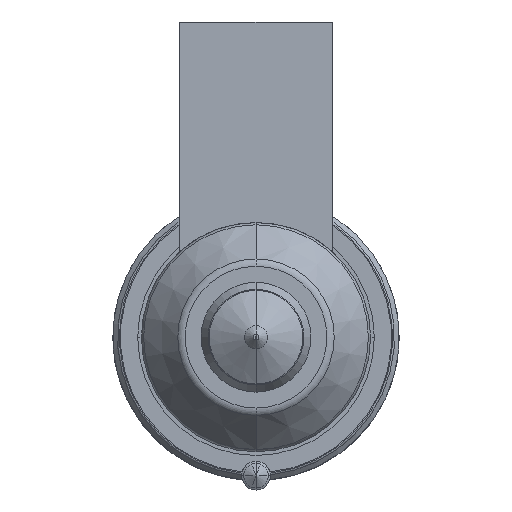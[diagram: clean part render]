
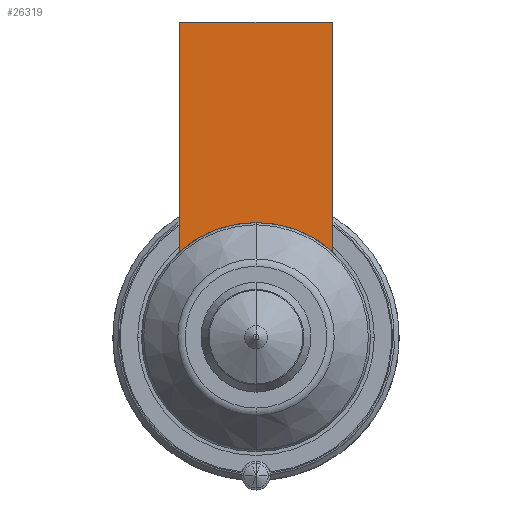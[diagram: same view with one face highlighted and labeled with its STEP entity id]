
A CAD part, front view. The second image highlights one B-rep face of the part: STEP entity #26319.
In plain terms, the highlighted planar face has unit normal (0, -1, 0).
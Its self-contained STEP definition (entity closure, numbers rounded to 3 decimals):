
#25496=DIRECTION('',(0.,0.,-1.));
#25497=VECTOR('',#25496,24.056);
#25498=CARTESIAN_POINT('',(-8.,-56.,33.));
#25499=LINE('',#25498,#25497);
#25511=CARTESIAN_POINT('',(0.,-56.,0.));
#25512=DIRECTION('',(0.,-1.,0.));
#25513=DIRECTION('',(0.,0.,1.));
#25514=AXIS2_PLACEMENT_3D('',#25511,#25512,#25513);
#25519=DIRECTION('',(1.,0.,0.));
#25520=VECTOR('',#25519,16.);
#25521=CARTESIAN_POINT('',(-8.,-56.,33.));
#25522=LINE('',#25521,#25520);
#25526=CARTESIAN_POINT('',(0.,-56.,0.));
#25527=DIRECTION('',(0.,-1.,0.));
#25528=DIRECTION('',(0.667,0.,0.745));
#25529=AXIS2_PLACEMENT_3D('',#25526,#25527,#25528);
#25681=DIRECTION('',(0.,0.,-1.));
#25682=VECTOR('',#25681,24.056);
#25683=CARTESIAN_POINT('',(8.,-56.,33.));
#25684=LINE('',#25683,#25682);
#26234=CARTESIAN_POINT('',(-8.,-56.,33.));
#26235=VERTEX_POINT('',#26234);
#26240=CARTESIAN_POINT('',(8.,-56.,33.));
#26241=VERTEX_POINT('',#26240);
#26243=CARTESIAN_POINT('',(-8.,-56.,8.944));
#26245=VERTEX_POINT('',#26243);
#26247=CARTESIAN_POINT('',(8.,-56.,8.944));
#26249=VERTEX_POINT('',#26247);
#26252=CARTESIAN_POINT('',(0.,-56.,12.));
#26253=VERTEX_POINT('',#26252);
#26304=CARTESIAN_POINT('',(-8.,-56.,33.));
#26305=DIRECTION('',(0.,-1.,0.));
#26306=DIRECTION('',(0.,0.,-1.));
#26307=AXIS2_PLACEMENT_3D('',#26304,#26305,#26306);
#26308=PLANE('',#26307);
#26309=ORIENTED_EDGE('',*,*,#26283,.T.);
#26310=ORIENTED_EDGE('',*,*,#26272,.F.);
#26312=ORIENTED_EDGE('',*,*,#26311,.T.);
#26314=ORIENTED_EDGE('',*,*,#26313,.T.);
#26316=ORIENTED_EDGE('',*,*,#26315,.T.);
#26317=EDGE_LOOP('',(#26309,#26310,#26312,#26314,#26316));
#26318=FACE_OUTER_BOUND('',#26317,.F.);
#26319=ADVANCED_FACE('',(#26318),#26308,.T.);
#25515=CIRCLE('',#25514,12.);
#25530=CIRCLE('',#25529,12.);
#26272=EDGE_CURVE('',#26235,#26245,#25499,.T.);
#26283=EDGE_CURVE('',#26253,#26245,#25515,.T.);
#26311=EDGE_CURVE('',#26235,#26241,#25522,.T.);
#26313=EDGE_CURVE('',#26241,#26249,#25684,.T.);
#26315=EDGE_CURVE('',#26249,#26253,#25530,.T.);
